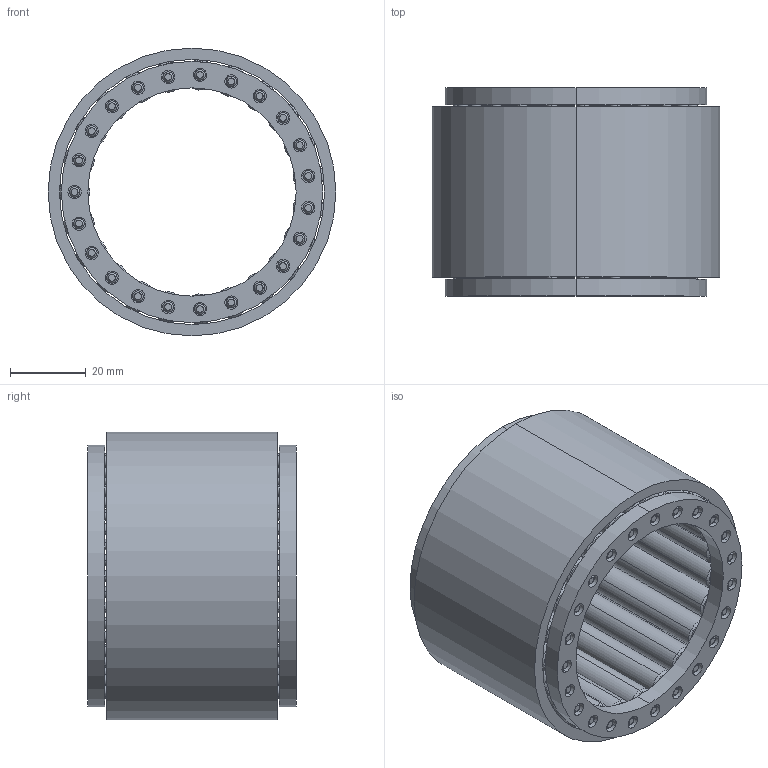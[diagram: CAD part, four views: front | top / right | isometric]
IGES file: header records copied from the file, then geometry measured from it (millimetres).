
Start section: 3D InterOp IGES (Version 20 0 1), Spatial Corp. Copyright (c) 1999-2007.
Global section: file name: 15.xx.54.igs; native system: Spatial Corp.; preprocessor: 3D InterOp GENERIC/IGES 3.0; author: Noname; organization: Noname; date: 20111114.154424; units: metre
Bounding box: 76 x 55 x 76 mm (x, y, z)
Surface area: 62025.4 mm2 (no closed solid volume)
Topology: 0 solids, 0 shells, 524 faces, 2188 edges, 2188 vertices
Faces by surface type: revolution 426, extrusion 98
